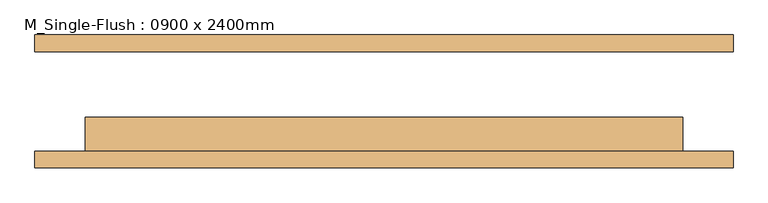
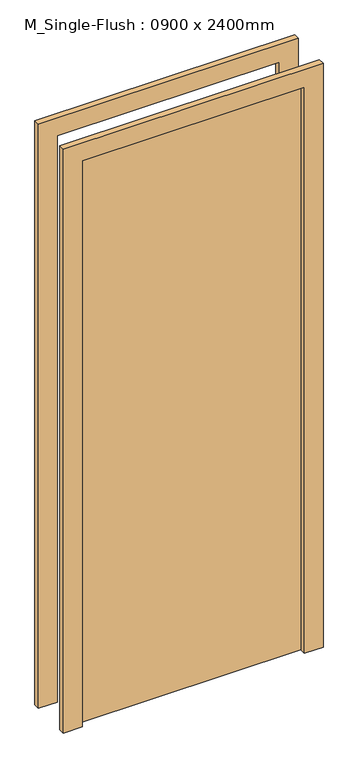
"""IFC4 building model written with IfcOpenShell, lengths in millimetres: door geometry, M_Single-Flush : 0900 x 2400mm."""

from ifc_helpers import new_model, si_unit, frame, origin, origin_with_axes, place, context, project, spatial, polyline, outline, extrude, source, transform, mapped, element, save


def m_single_flush_0900_x_2400mm_e5ebad00(model_context):
    return source(origin(), model_context, "Body", "SweptSolid", [
        extrude(outline(polyline([(450.0, -24.0), (450.0, -75.0), (-450.0, -75.0), (-450.0, -24.0), (450.0, -24.0)])), origin_with_axes(), (0.0, 0.0, 1.0), 2425.0),
        extrude(outline(polyline([(2501.0, -526.0), (0.0, -526.0), (0.0, -450.0), (2425.0, -450.0), (2425.0, 450.0), (0.0, 450.0), (0.0, 526.0), (2501.0, 526.0), (2501.0, -526.0)])), frame((0.0, -100.0, 0.0), z_axis=(0.0, 1.0, 0.0), x_axis=(0.0, 0.0, 1.0)), (0.0, 0.0, 1.0), 25.0),
        extrude(outline(polyline([(2501.0, 526.0), (2501.0, -526.0), (0.0, -526.0), (0.0, -450.0), (2425.0, -450.0), (2425.0, 450.0), (0.0, 450.0), (0.0, 526.0), (2501.0, 526.0)])), frame((0.0, 75.0, 0.0), z_axis=(0.0, 1.0, 0.0), x_axis=(0.0, 0.0, 1.0)), (0.0, 0.0, 1.0), 25.0),
    ])


if __name__ == "__main__":
    model = new_model("IFC4")
    model_context = context("Model", 3, world=origin())
    ifc_project = project(units=[si_unit("LENGTHUNIT", "METRE", prefix="MILLI")], contexts=[model_context])
    site = spatial("IfcSite", under=ifc_project)
    building = spatial("IfcBuilding", under=site)
    placement = place(None, origin())
    m_single_flush_0900_x_2400mm_shape = m_single_flush_0900_x_2400mm_e5ebad00(model_context)
    element("IfcDoor", 1, ObjectType="M_Single-Flush : 0900 x 2400mm", at=placement, inside=building, context=model_context, shape_type="MappedRepresentation", body=[
        mapped(m_single_flush_0900_x_2400mm_shape, transform((0.0, 0.0, 0.0), x_axis=(1.0, 0.0, 0.0), y_axis=(0.0, 1.0, 0.0), z_axis=(0.0, 0.0, 1.0))),
    ])
    save(model, "model.ifc")
